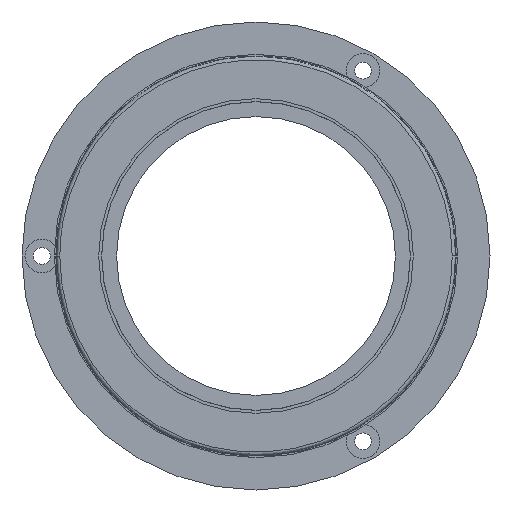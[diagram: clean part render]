
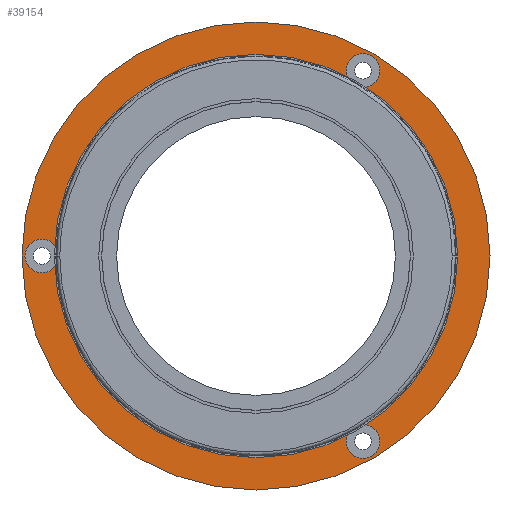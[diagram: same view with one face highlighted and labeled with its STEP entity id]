
A CAD part, left-side view. The second image highlights one B-rep face of the part: STEP entity #39154.
In plain terms, the highlighted planar face has unit normal (-1, 0, 0).
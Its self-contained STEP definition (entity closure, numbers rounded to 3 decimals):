
#529 = EDGE_CURVE ( 'NONE', #10053, #35625, #14209, .T. ) ;
#1558 = VERTEX_POINT ( 'NONE', #47709 ) ;
#2940 = DIRECTION ( 'NONE',  ( 0., -1., 0. ) ) ;
#3050 = FACE_BOUND ( 'NONE', #22161, .T. ) ;
#3369 = EDGE_CURVE ( 'NONE', #25519, #4122, #66202, .T. ) ;
#4063 = EDGE_CURVE ( 'NONE', #35625, #10053, #10605, .T. ) ;
#4122 = VERTEX_POINT ( 'NONE', #24914 ) ;
#6465 = EDGE_CURVE ( 'NONE', #19894, #1558, #36344, .T. ) ;
#6807 = AXIS2_PLACEMENT_3D ( 'NONE', #30875, #8091, #58828 ) ;
#7107 = CARTESIAN_POINT ( 'NONE',  ( 2.8, 17.5, 0. ) ) ;
#8091 = DIRECTION ( 'NONE',  ( 1., 0., 0. ) ) ;
#10053 = VERTEX_POINT ( 'NONE', #17507 ) ;
#10196 = CIRCLE ( 'NONE', #66910, 23.5 ) ;
#10605 = CIRCLE ( 'NONE', #48985, 1.7 ) ;
#11206 = ORIENTED_EDGE ( 'NONE', *, *, #43038, .T. ) ;
#11657 = CARTESIAN_POINT ( 'NONE',  ( 2.8, -10.75, -18.62 ) ) ;
#13473 = CARTESIAN_POINT ( 'NONE',  ( 2.8, -12.45, 18.62 ) ) ;
#13584 = DIRECTION ( 'NONE',  ( 1., 0., 0. ) ) ;
#14209 = CIRCLE ( 'NONE', #18596, 1.7 ) ;
#15565 = CARTESIAN_POINT ( 'NONE',  ( 2.8, 0., 0. ) ) ;
#15601 = EDGE_LOOP ( 'NONE', ( #64943, #28313 ) ) ;
#15786 = EDGE_LOOP ( 'NONE', ( #58136, #18218 ) ) ;
#16899 = FACE_BOUND ( 'NONE', #15601, .T. ) ;
#17507 = CARTESIAN_POINT ( 'NONE',  ( 2.8, 23.2, 0. ) ) ;
#18218 = ORIENTED_EDGE ( 'NONE', *, *, #3369, .T. ) ;
#18596 = AXIS2_PLACEMENT_3D ( 'NONE', #69422, #36148, #2940 ) ;
#19894 = VERTEX_POINT ( 'NONE', #13473 ) ;
#20884 = DIRECTION ( 'NONE',  ( -1., 0., 0. ) ) ;
#21013 = ORIENTED_EDGE ( 'NONE', *, *, #529, .T. ) ;
#21116 = VERTEX_POINT ( 'NONE', #50406 ) ;
#21924 = DIRECTION ( 'NONE',  ( -1., 0., 0. ) ) ;
#22161 = EDGE_LOOP ( 'NONE', ( #42254, #50409 ) ) ;
#23258 = AXIS2_PLACEMENT_3D ( 'NONE', #30534, #13584, #57770 ) ;
#24276 = AXIS2_PLACEMENT_3D ( 'NONE', #60672, #60197, #32964 ) ;
#24914 = CARTESIAN_POINT ( 'NONE',  ( 2.8, -12.45, -18.62 ) ) ;
#25519 = VERTEX_POINT ( 'NONE', #39169 ) ;
#27501 = DIRECTION ( 'NONE',  ( 0., 1., 0. ) ) ;
#27839 = CIRCLE ( 'NONE', #6807, 17.5 ) ;
#28127 = DIRECTION ( 'NONE',  ( 1., 0., 0. ) ) ;
#28247 = EDGE_CURVE ( 'NONE', #68853, #21116, #27839, .T. ) ;
#28313 = ORIENTED_EDGE ( 'NONE', *, *, #51132, .T. ) ;
#28447 = PLANE ( 'NONE',  #34114 ) ;
#30534 = CARTESIAN_POINT ( 'NONE',  ( 2.8, 0., 0. ) ) ;
#30847 = AXIS2_PLACEMENT_3D ( 'NONE', #38605, #28127, #66791 ) ;
#30875 = CARTESIAN_POINT ( 'NONE',  ( 2.8, 0., 0. ) ) ;
#32115 = CARTESIAN_POINT ( 'NONE',  ( 2.8, 0., 0. ) ) ;
#32964 = DIRECTION ( 'NONE',  ( 0., -1., 0. ) ) ;
#34114 = AXIS2_PLACEMENT_3D ( 'NONE', #7107, #45941, #40580 ) ;
#35033 = CIRCLE ( 'NONE', #71179, 1.7 ) ;
#35625 = VERTEX_POINT ( 'NONE', #52176 ) ;
#36148 = DIRECTION ( 'NONE',  ( 1., 0., 0. ) ) ;
#36344 = CIRCLE ( 'NONE', #30847, 1.7 ) ;
#37712 = CIRCLE ( 'NONE', #23258, 17.5 ) ;
#37874 = DIRECTION ( 'NONE',  ( 0., 1., 0. ) ) ;
#38605 = CARTESIAN_POINT ( 'NONE',  ( 2.8, -10.75, 18.62 ) ) ;
#38864 = DIRECTION ( 'NONE',  ( 0., -1., 0. ) ) ;
#39154 = ADVANCED_FACE ( 'NONE', ( #43861, #16899, #3050, #63865, #49929 ), #28447, .T. ) ;
#39169 = CARTESIAN_POINT ( 'NONE',  ( 2.8, -9.05, -18.62 ) ) ;
#40018 = DIRECTION ( 'NONE',  ( 1., 0., 0. ) ) ;
#40580 = DIRECTION ( 'NONE',  ( 0., -1., 0. ) ) ;
#41158 = CARTESIAN_POINT ( 'NONE',  ( 2.8, 23.5, 0. ) ) ;
#42254 = ORIENTED_EDGE ( 'NONE', *, *, #6465, .T. ) ;
#43038 = EDGE_CURVE ( 'NONE', #53288, #57711, #67088, .T. ) ;
#43861 = FACE_OUTER_BOUND ( 'NONE', #54924, .T. ) ;
#45941 = DIRECTION ( 'NONE',  ( -1., 0., 0. ) ) ;
#47338 = EDGE_CURVE ( 'NONE', #57711, #53288, #10196, .T. ) ;
#47709 = CARTESIAN_POINT ( 'NONE',  ( 2.8, -9.05, 18.62 ) ) ;
#48985 = AXIS2_PLACEMENT_3D ( 'NONE', #52828, #58436, #53070 ) ;
#49186 = CARTESIAN_POINT ( 'NONE',  ( 2.8, -23.5, 0. ) ) ;
#49929 = FACE_BOUND ( 'NONE', #63216, .T. ) ;
#50406 = CARTESIAN_POINT ( 'NONE',  ( 2.8, -17.5, 0. ) ) ;
#50409 = ORIENTED_EDGE ( 'NONE', *, *, #64204, .T. ) ;
#50766 = ORIENTED_EDGE ( 'NONE', *, *, #4063, .T. ) ;
#51132 = EDGE_CURVE ( 'NONE', #21116, #68853, #37712, .T. ) ;
#52176 = CARTESIAN_POINT ( 'NONE',  ( 2.8, 19.8, 0. ) ) ;
#52828 = CARTESIAN_POINT ( 'NONE',  ( 2.8, 21.5, 0. ) ) ;
#53070 = DIRECTION ( 'NONE',  ( 0., -1., 0. ) ) ;
#53288 = VERTEX_POINT ( 'NONE', #49186 ) ;
#54924 = EDGE_LOOP ( 'NONE', ( #59957, #11206 ) ) ;
#54965 = EDGE_CURVE ( 'NONE', #4122, #25519, #68731, .T. ) ;
#55395 = DIRECTION ( 'NONE',  ( 1., 0., 0. ) ) ;
#55880 = CARTESIAN_POINT ( 'NONE',  ( 2.8, -10.75, 18.62 ) ) ;
#56092 = AXIS2_PLACEMENT_3D ( 'NONE', #11657, #40018, #56094 ) ;
#56094 = DIRECTION ( 'NONE',  ( 0., -1., 0. ) ) ;
#57711 = VERTEX_POINT ( 'NONE', #41158 ) ;
#57770 = DIRECTION ( 'NONE',  ( 0., 1., 0. ) ) ;
#58136 = ORIENTED_EDGE ( 'NONE', *, *, #54965, .T. ) ;
#58436 = DIRECTION ( 'NONE',  ( 1., 0., 0. ) ) ;
#58828 = DIRECTION ( 'NONE',  ( 0., 1., 0. ) ) ;
#59957 = ORIENTED_EDGE ( 'NONE', *, *, #47338, .T. ) ;
#60197 = DIRECTION ( 'NONE',  ( 1., 0., 0. ) ) ;
#60672 = CARTESIAN_POINT ( 'NONE',  ( 2.8, -10.75, -18.62 ) ) ;
#62179 = CARTESIAN_POINT ( 'NONE',  ( 2.8, 17.5, 0. ) ) ;
#63216 = EDGE_LOOP ( 'NONE', ( #50766, #21013 ) ) ;
#63865 = FACE_BOUND ( 'NONE', #15786, .T. ) ;
#64204 = EDGE_CURVE ( 'NONE', #1558, #19894, #35033, .T. ) ;
#64943 = ORIENTED_EDGE ( 'NONE', *, *, #28247, .T. ) ;
#65437 = AXIS2_PLACEMENT_3D ( 'NONE', #32115, #21924, #27501 ) ;
#66202 = CIRCLE ( 'NONE', #24276, 1.7 ) ;
#66791 = DIRECTION ( 'NONE',  ( 0., -1., 0. ) ) ;
#66910 = AXIS2_PLACEMENT_3D ( 'NONE', #15565, #20884, #37874 ) ;
#67088 = CIRCLE ( 'NONE', #65437, 23.5 ) ;
#68731 = CIRCLE ( 'NONE', #56092, 1.7 ) ;
#68853 = VERTEX_POINT ( 'NONE', #62179 ) ;
#69422 = CARTESIAN_POINT ( 'NONE',  ( 2.8, 21.5, 0. ) ) ;
#71179 = AXIS2_PLACEMENT_3D ( 'NONE', #55880, #55395, #38864 ) ;
